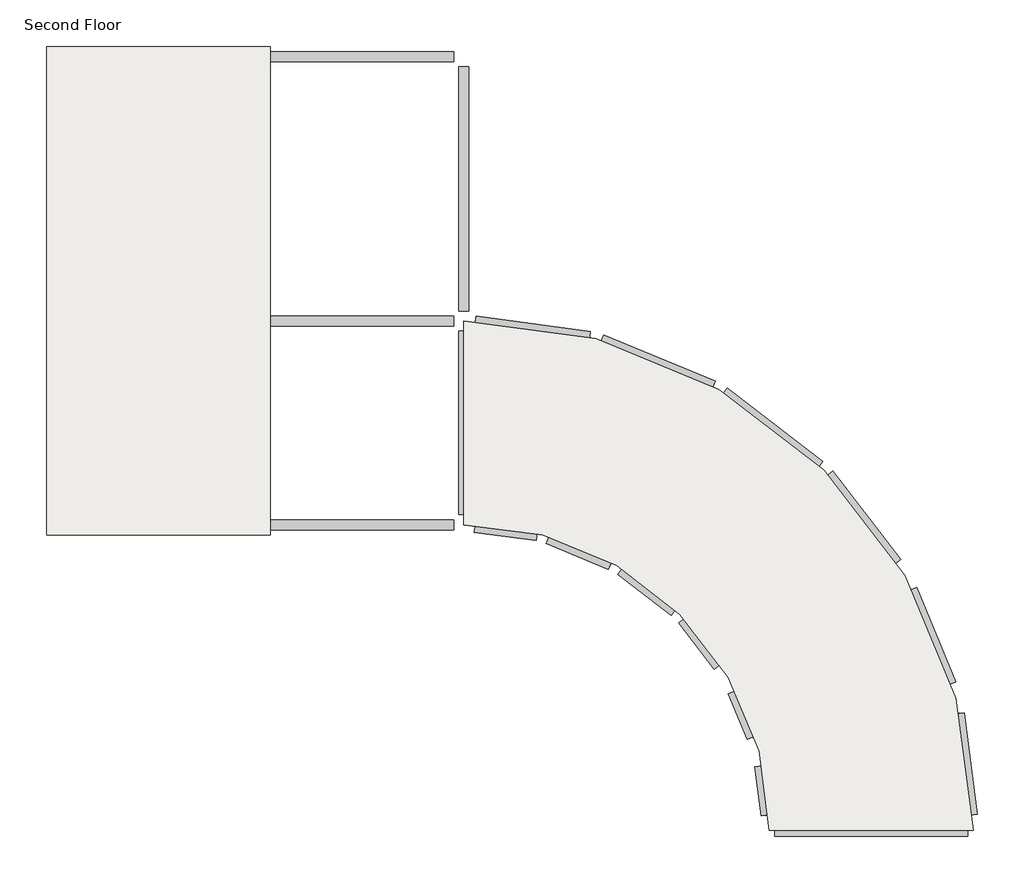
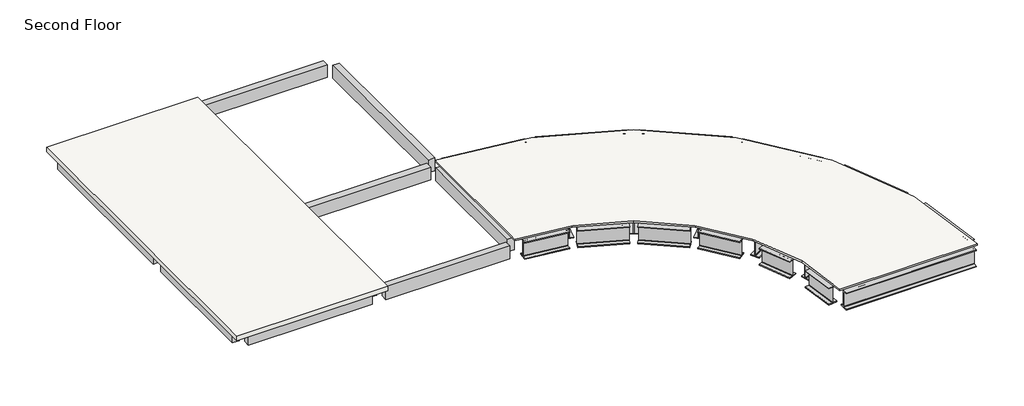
# One storey: 30 beams, 2 slabs.
"""IFC4 building model written with IfcOpenShell, lengths in millimetres."""

from ifc_helpers import new_model, si_unit, frame, origin, place, context, project, spatial, polyline, outline, extrude, faceted_brep, transform, mapped, element, save
from components import w760x350_3d57319f, w760x350_ee6cdec3, w760x350_bd054468, w760x350_eeeee08b, w760x350_0240efb8, w760x350_3b0f9326, w760x350_58736e79, w760x350_63e12864, w760x350_cb514dfd, w760x350_4cdc6c1b

model = new_model("IFC4")

# Units and contexts
model_context = context("Model", 3, world=origin())
ifc_project = project(units=[si_unit("LENGTHUNIT", "METRE", prefix="MILLI")], contexts=[model_context])

# Site, building, storey
site = spatial("IfcSite", under=ifc_project)
building = spatial("IfcBuilding", under=site)
storey = spatial("IfcBuildingStorey", under=building, Name="Second Floor", Elevation=3048.0)

# Beams
placement = place(None, origin())
element("IfcBeam", 1, ObjectType="M_Concrete-Rectangular Beam : 300 x 600mm", at=placement, inside=storey, context=model_context, shape_type="SweptSolid", body=[
    extrude(outline(polyline([(-14241.0467956, 11398.6404637), (-14241.0467956, 11098.6404637), (-19737.0467956, 11098.6404637), (-19737.0467956, 11398.6404637), (-14241.0467956, 11398.6404637)])), frame((0.0, 0.0, 2448.0), z_axis=(0.0, 0.0, 1.0), x_axis=(1.0, 0.0, 0.0)), (0.0, 0.0, 1.0), 600.0),
])
element("IfcBeam", 2, ObjectType="M_Concrete-Rectangular Beam : 300 x 600mm", at=placement, inside=storey, context=model_context, shape_type="SweptSolid", body=[
    extrude(outline(polyline([(-20337.0467956, 11398.6404637), (-20337.0467956, 11098.6404637), (-25833.0467956, 11098.6404637), (-25833.0467956, 11398.6404637), (-20337.0467956, 11398.6404637)])), frame((0.0, 0.0, 2448.0), z_axis=(0.0, 0.0, 1.0), x_axis=(1.0, 0.0, 0.0)), (0.0, 0.0, 1.0), 510.0),
])
element("IfcBeam", 3, ObjectType="M_Concrete-Rectangular Beam : 300 x 600mm", at=placement, inside=storey, context=model_context, shape_type="SweptSolid", body=[
    extrude(outline(polyline([(-14241.0467956, 3473.6404637), (-14241.0467956, 3173.6404637), (-19737.0467956, 3173.6404637), (-19737.0467956, 3473.6404637), (-14241.0467956, 3473.6404637)])), frame((0.0, 0.0, 2448.0), z_axis=(0.0, 0.0, 1.0), x_axis=(1.0, 0.0, 0.0)), (0.0, 0.0, 1.0), 600.0),
])
element("IfcBeam", 4, ObjectType="M_Concrete-Rectangular Beam : 300 x 600mm", at=placement, inside=storey, context=model_context, shape_type="SweptSolid", body=[
    extrude(outline(polyline([(-20337.0467956, 3473.6404637), (-20337.0467956, 3173.6404637), (-25833.0467956, 3173.6404637), (-25833.0467956, 3473.6404637), (-20337.0467956, 3473.6404637)])), frame((0.0, 0.0, 2448.0), z_axis=(0.0, 0.0, 1.0), x_axis=(1.0, 0.0, 0.0)), (0.0, 0.0, 1.0), 510.0),
])
element("IfcBeam", 5, ObjectType="M_Concrete-Rectangular Beam : 300 x 600mm", at=placement, inside=storey, context=model_context, shape_type="SweptSolid", body=[
    extrude(outline(polyline([(-14241.0467956, -2622.3595363), (-14241.0467956, -2922.3595363), (-19737.0467956, -2922.3595363), (-19737.0467956, -2622.3595363), (-14241.0467956, -2622.3595363)])), frame((0.0, 0.0, 2448.0), z_axis=(0.0, 0.0, 1.0), x_axis=(1.0, 0.0, 0.0)), (0.0, 0.0, 1.0), 600.0),
])
element("IfcBeam", 6, ObjectType="M_Concrete-Rectangular Beam : 300 x 600mm", at=placement, inside=storey, context=model_context, shape_type="SweptSolid", body=[
    extrude(outline(polyline([(-20337.0467956, -2622.3595363), (-20337.0467956, -2922.3595363), (-25833.0467956, -2922.3595363), (-25833.0467956, -2622.3595363), (-20337.0467956, -2622.3595363)])), frame((0.0, 0.0, 2448.0), z_axis=(0.0, 0.0, 1.0), x_axis=(1.0, 0.0, 0.0)), (0.0, 0.0, 1.0), 510.0),
])
element("IfcBeam", 7, ObjectType="M_Concrete-Rectangular Beam : 300 x 600mm", at=placement, inside=storey, context=model_context, shape_type="SweptSolid", body=[
    extrude(outline(polyline([(-13791.0467956, -2472.3595363), (-14091.0467956, -2472.3595363), (-14091.0467956, 3023.6404637), (-13791.0467956, 3023.6404637), (-13791.0467956, -2472.3595363)])), frame((0.0, 0.0, 2448.0), z_axis=(0.0, 0.0, 1.0), x_axis=(1.0, 0.0, 0.0)), (0.0, 0.0, 1.0), 600.0),
])
element("IfcBeam", 8, ObjectType="M_Concrete-Rectangular Beam : 300 x 600mm", at=placement, inside=storey, context=model_context, shape_type="SweptSolid", body=[
    extrude(outline(polyline([(-13791.0467956, 3623.6404637), (-14091.0467956, 3623.6404637), (-14091.0467956, 10948.6404637), (-13791.0467956, 10948.6404637), (-13791.0467956, 3623.6404637)])), frame((0.0, 0.0, 2448.0), z_axis=(0.0, 0.0, 1.0), x_axis=(1.0, 0.0, 0.0)), (0.0, 0.0, 1.0), 600.0),
])
element("IfcBeam", 9, ObjectType="M_Concrete-Rectangular Beam : 300 x 600mm", at=placement, inside=storey, context=model_context, shape_type="SweptSolid", body=[
    extrude(outline(polyline([(-19887.0467956, -2472.3595363), (-20187.0467956, -2472.3595363), (-20187.0467956, 3023.6404637), (-19887.0467956, 3023.6404637), (-19887.0467956, -2472.3595363)])), frame((0.0, 0.0, 2448.0), z_axis=(0.0, 0.0, 1.0), x_axis=(1.0, 0.0, 0.0)), (0.0, 0.0, 1.0), 510.0),
])
element("IfcBeam", 10, ObjectType="M_Concrete-Rectangular Beam : 300 x 600mm", at=placement, inside=storey, context=model_context, shape_type="SweptSolid", body=[
    extrude(outline(polyline([(-19887.0467956, 3623.6404637), (-20187.0467956, 3623.6404637), (-20187.0467956, 10948.6404637), (-19887.0467956, 10948.6404637), (-19887.0467956, 3623.6404637)])), frame((0.0, 0.0, 2448.0), z_axis=(0.0, 0.0, 1.0), x_axis=(1.0, 0.0, 0.0)), (0.0, 0.0, 1.0), 510.0),
])
element("IfcBeam", 11, ObjectType="M_Concrete-Rectangular Beam : 300 x 600mm", at=placement, inside=storey, context=model_context, shape_type="SweptSolid", body=[
    extrude(outline(polyline([(-25983.0467956, -2472.3595363), (-26283.0467956, -2472.3595363), (-26283.0467956, 3023.6404637), (-25983.0467956, 3023.6404637), (-25983.0467956, -2472.3595363)])), frame((0.0, 0.0, 2448.0), z_axis=(0.0, 0.0, 1.0), x_axis=(1.0, 0.0, 0.0)), (0.0, 0.0, 1.0), 510.0),
])
element("IfcBeam", 12, ObjectType="M_Concrete-Rectangular Beam : 300 x 600mm", at=placement, inside=storey, context=model_context, shape_type="SweptSolid", body=[
    extrude(outline(polyline([(-25983.0467956, 3623.6404637), (-26283.0467956, 3623.6404637), (-26283.0467956, 10948.6404637), (-25983.0467956, 10948.6404637), (-25983.0467956, 3623.6404637)])), frame((0.0, 0.0, 2448.0), z_axis=(0.0, 0.0, 1.0), x_axis=(1.0, 0.0, 0.0)), (0.0, 0.0, 1.0), 510.0),
])
w760x350_shape = w760x350_3d57319f(model_context)
element("IfcBeam", 13, ObjectType="M_W Shapes : W760X350", at=placement, inside=storey, context=model_context, shape_type="MappedRepresentation", body=[
    mapped(w760x350_shape, transform((-10785.5249977, -139.7918622, 2650.5), x_axis=(0.25881904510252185, 0.9659258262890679, 0.0), y_axis=(-0.9659258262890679, 0.25881904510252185, 0.0), z_axis=(0.0, 0.0, 1.0))),
])
element("IfcBeam", 14, ObjectType="M_W Shapes : W760X350", at=placement, inside=storey, context=model_context, shape_type="MappedRepresentation", body=[
    mapped(w760x350_shape, transform((-7845.0467956, -1357.7778134, 2650.5), x_axis=(0.5000000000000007, 0.8660254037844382, 0.0), y_axis=(-0.8660254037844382, 0.5000000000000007, 0.0), z_axis=(0.0, 0.0, 1.0))),
])
element("IfcBeam", 15, ObjectType="M_W Shapes : W760X350", at=placement, inside=storey, context=model_context, shape_type="MappedRepresentation", body=[
    mapped(w760x350_shape, transform((-5320.0009193, -3295.3136601, 2650.5), x_axis=(0.707106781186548, 0.707106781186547, 0.0), y_axis=(-0.707106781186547, 0.707106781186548, 0.0), z_axis=(0.0, 0.0, 1.0))),
])
w760x350_2_shape = w760x350_ee6cdec3(model_context)
element("IfcBeam", 16, ObjectType="M_W Shapes : W760X350", at=placement, inside=storey, context=model_context, shape_type="MappedRepresentation", body=[
    mapped(w760x350_2_shape, transform((-3382.4650726, -5820.3595363, 2650.5), x_axis=(0.866025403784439, 0.4999999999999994, 0.0), y_axis=(-0.4999999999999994, 0.866025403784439, 0.0), z_axis=(0.0, 0.0, 1.0))),
])
element("IfcBeam", 17, ObjectType="M_W Shapes : W760X350", at=placement, inside=storey, context=model_context, shape_type="MappedRepresentation", body=[
    mapped(w760x350_2_shape, transform((-2164.4791214, -8760.8377385, 2650.5), x_axis=(0.9659258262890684, 0.2588190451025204, 0.0), y_axis=(-0.2588190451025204, 0.9659258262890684, 0.0), z_axis=(0.0, 0.0, 1.0))),
])
element("IfcBeam", 18, ObjectType="M_W Shapes : W760X350", at=placement, inside=storey, context=model_context, shape_type="MappedRepresentation", body=[
    mapped(w760x350_2_shape, transform((-1749.0467956, -11916.3595363, 2650.5), x_axis=(1.0, 0.0, 0.0), y_axis=(0.0, 1.0, 0.0), z_axis=(0.0, 0.0, 1.0))),
])
w760x350_3_shape = w760x350_bd054468(model_context)
element("IfcBeam", 19, ObjectType="M_W Shapes : W760X350", at=placement, inside=storey, context=model_context, shape_type="MappedRepresentation", body=[
    mapped(w760x350_3_shape, transform((-12757.7261213, -2928.1466585, 2650.5), x_axis=(0.991444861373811, -0.13052619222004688, 0.0), y_axis=(0.13052619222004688, 0.991444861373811, 0.0), z_axis=(0.0, 0.0, 1.0))),
])
w760x350_4_shape = w760x350_eeeee08b(model_context)
element("IfcBeam", 20, ObjectType="M_W Shapes : W760X350", at=placement, inside=storey, context=model_context, shape_type="MappedRepresentation", body=[
    mapped(w760x350_4_shape, transform((-10471.7261213, -3540.6785124, 2650.5), x_axis=(0.9238795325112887, -0.38268343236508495, 0.0), y_axis=(0.38268343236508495, 0.9238795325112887, 0.0), z_axis=(0.0, 0.0, 1.0))),
])
element("IfcBeam", 21, ObjectType="M_W Shapes : W760X350", at=placement, inside=storey, context=model_context, shape_type="MappedRepresentation", body=[
    mapped(w760x350_4_shape, transform((-8422.154592, -4723.9991867, 2650.5), x_axis=(0.7933533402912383, -0.6087614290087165, 0.0), y_axis=(0.6087614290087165, 0.7933533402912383, 0.0), z_axis=(0.0, 0.0, 1.0))),
])
w760x350_5_shape = w760x350_0240efb8(model_context)
element("IfcBeam", 22, ObjectType="M_W Shapes : W760X350", at=placement, inside=storey, context=model_context, shape_type="MappedRepresentation", body=[
    mapped(w760x350_5_shape, transform((-6748.6864459, -6397.4673328, 2650.5), x_axis=(0.6087614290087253, -0.7933533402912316, 0.0), y_axis=(0.7933533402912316, 0.6087614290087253, 0.0), z_axis=(0.0, 0.0, 1.0))),
])
w760x350_6_shape = w760x350_3b0f9326(model_context)
element("IfcBeam", 23, ObjectType="M_W Shapes : W760X350", at=placement, inside=storey, context=model_context, shape_type="MappedRepresentation", body=[
    mapped(w760x350_6_shape, transform((-5565.3657717, -8447.0388621, 2650.5), x_axis=(0.38268343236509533, -0.9238795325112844, 0.0), y_axis=(0.9238795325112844, 0.38268343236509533, 0.0), z_axis=(0.0, 0.0, 1.0))),
])
element("IfcBeam", 24, ObjectType="M_W Shapes : W760X350", at=placement, inside=storey, context=model_context, shape_type="MappedRepresentation", body=[
    mapped(w760x350_6_shape, transform((-4952.8339178, -10733.0388621, 2650.5), x_axis=(0.13052619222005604, -0.9914448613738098, 0.0), y_axis=(0.9914448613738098, 0.13052619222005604, 0.0), z_axis=(0.0, 0.0, 1.0))),
])
w760x350_7_shape = w760x350_58736e79(model_context)
element("IfcBeam", 25, ObjectType="M_W Shapes : W760X350", at=placement, inside=storey, context=model_context, shape_type="MappedRepresentation", body=[
    mapped(w760x350_7_shape, transform((-11968.8456719, 3063.99526, 2650.5), x_axis=(0.9914448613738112, -0.13052619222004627, 0.0), y_axis=(0.13052619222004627, 0.9914448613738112, 0.0), z_axis=(0.0, 0.0, 1.0))),
])
w760x350_8_shape = w760x350_63e12864(model_context)
element("IfcBeam", 26, ObjectType="M_W Shapes : W760X350", at=placement, inside=storey, context=model_context, shape_type="MappedRepresentation", body=[
    mapped(w760x350_8_shape, transform((-8158.8456719, 2043.1088368, 2650.5), x_axis=(0.923879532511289, -0.3826834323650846, 0.0), y_axis=(0.3826834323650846, 0.923879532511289, 0.0), z_axis=(0.0, 0.0, 1.0))),
])
element("IfcBeam", 27, ObjectType="M_W Shapes : W760X350", at=placement, inside=storey, context=model_context, shape_type="MappedRepresentation", body=[
    mapped(w760x350_8_shape, transform((-4742.8931229, 70.9077131, 2650.5), x_axis=(0.7933533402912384, -0.6087614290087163, 0.0), y_axis=(0.6087614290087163, 0.7933533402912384, 0.0), z_axis=(0.0, 0.0, 1.0))),
])
w760x350_9_shape = w760x350_cb514dfd(model_context)
element("IfcBeam", 28, ObjectType="M_W Shapes : W760X350", at=placement, inside=storey, context=model_context, shape_type="MappedRepresentation", body=[
    mapped(w760x350_9_shape, transform((-1953.7795461, -2718.2058637, 2650.5), x_axis=(0.608761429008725, -0.7933533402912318, 0.0), y_axis=(0.7933533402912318, 0.608761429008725, 0.0), z_axis=(0.0, 0.0, 1.0))),
])
w760x350_10_shape = w760x350_4cdc6c1b(model_context)
element("IfcBeam", 29, ObjectType="M_W Shapes : W760X350", at=placement, inside=storey, context=model_context, shape_type="MappedRepresentation", body=[
    mapped(w760x350_10_shape, transform((18.4215776, -6134.1584127, 2650.5), x_axis=(0.38268343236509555, -0.9238795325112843, 0.0), y_axis=(0.9238795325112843, 0.38268343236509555, 0.0), z_axis=(0.0, 0.0, 1.0))),
])
element("IfcBeam", 30, ObjectType="M_W Shapes : W760X350", at=placement, inside=storey, context=model_context, shape_type="MappedRepresentation", body=[
    mapped(w760x350_10_shape, transform((1039.3080008, -9944.1584127, 2650.5), x_axis=(0.13052619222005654, -0.9914448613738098, 0.0), y_axis=(0.9914448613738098, 0.13052619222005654, 0.0), z_axis=(0.0, 0.0, 1.0))),
])

# Slabs
element("IfcSlab", 31, ObjectType="160mm Concrete With 50mm Metal Deck", at=placement, inside=storey, context=model_context, shape_type="Brep", body=[
    faceted_brep([(-19737.0467956, 11548.6404637, 2958.0), (-19737.0467956, 10948.6404637, 2958.0), (-19737.0467956, 3623.6404637, 2958.0), (-19737.0467956, 3023.6404637, 2958.0), (-19737.0467956, -2472.3595363, 2958.0), (-19737.0467956, -3072.3595363, 2958.0), (-20337.0467956, -3072.3595363, 2958.0), (-25833.0467956, -3072.3595363, 2958.0), (-26433.0467956, -3072.3595363, 2958.0), (-26433.0467956, -2472.3595363, 2958.0), (-26433.0467956, 3023.6404637, 2958.0), (-26433.0467956, 3623.6404637, 2958.0), (-26433.0467956, 10948.6404637, 2958.0), (-26433.0467956, 11548.6404637, 2958.0), (-25833.0467956, 11548.6404637, 2958.0), (-20337.0467956, 11548.6404637, 2958.0), (-19737.0467956, 11548.6404637, 3168.0), (-26433.0467956, 11548.6404637, 3168.0), (-26433.0467956, -3072.3595363, 3168.0), (-19737.0467956, -3072.3595363, 3168.0)], [[[0, 1, 2, 3, 4, 5, 6, 7, 8, 9, 10, 11, 12, 13, 14, 15]], [[16, 17, 18, 19]], [[5, 4, 3, 2, 1, 0, 16, 19]], [[8, 7, 6, 5, 19, 18]], [[13, 12, 11, 10, 9, 8, 18, 17]], [[0, 15, 14, 13, 17, 16]]]),
])
element("IfcSlab", 32, ObjectType="75mm Metal Roof Deck", at=placement, inside=storey, context=model_context, shape_type="SweptSolid", body=[
    extrude(outline(polyline([(-13941.0467956, 3323.6404637), (-9996.6445482, 2804.3500563), (-6321.0467956, 1281.8676173), (-3164.7394503, -1140.0521911), (-742.8196419, -4296.3595363), (779.6627971, -7971.957289), (1298.9532044, -11916.3595363), (-4797.0467956, -11916.3595363), (-5108.62104, -9549.7181879), (-6022.1105033, -7344.3595363), (-7475.2623884, -5450.5751292), (-9369.0467956, -3997.4232441), (-11574.4054471, -3083.9337808), (-13941.0467956, -2772.3595363), (-13941.0467956, 3323.6404637)])), frame((0.0, 0.0, 3093.0), z_axis=(0.0, 0.0, 1.0), x_axis=(1.0, 0.0, 0.0)), (0.0, 0.0, 1.0), 75.0),
])

save(model, "model.ifc")
